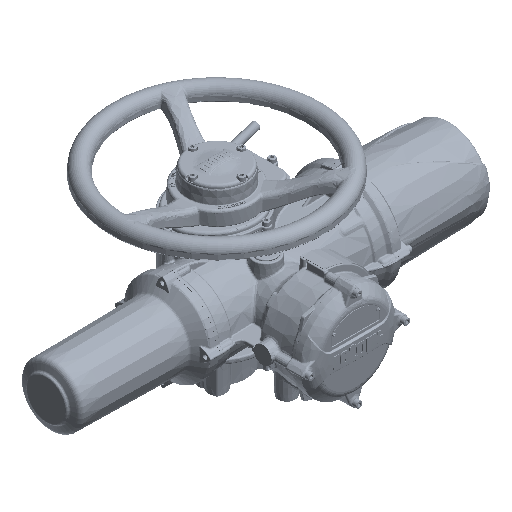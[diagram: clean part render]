
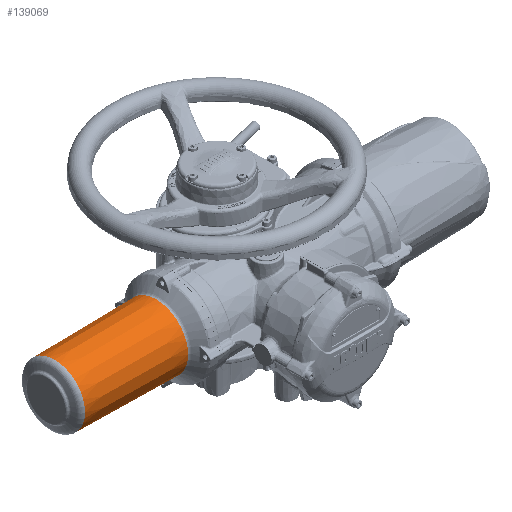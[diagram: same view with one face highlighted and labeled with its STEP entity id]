
A CAD part, isometric view. The second image highlights one B-rep face of the part: STEP entity #139069.
In plain terms, the highlighted conical face has half-angle 0.75 degrees and reference radius 65.5 mm.
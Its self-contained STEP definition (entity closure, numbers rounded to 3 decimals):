
#5150=CONICAL_SURFACE('',#147661,65.5,0.013);
#17978=B_SPLINE_CURVE_WITH_KNOTS('',3,(#252116,#252117,#252118,#252119,
#252120,#252121,#252122,#252123,#252124,#252125,#252126,#252127,#252128,
#252129,#252130,#252131,#252132,#252133,#252134,#252135,#252136,#252137,
#252138,#252139,#252140,#252141,#252142,#252143,#252144,#252145),
 .UNSPECIFIED.,.T.,.F.,(1,1,1,1,1,1,1,1,1,1,1,1,1,1,1,1,1,1,1,1,1,1,1,1,
1,1,1,1,1,1,1,1,1,1),(-0.016,-0.013,-0.006,
0.,0.003,0.006,0.01,0.013,
0.016,0.019,0.022,0.026,
0.029,0.032,0.035,0.038,
0.042,0.045,0.051,0.058,
0.064,0.067,0.07,0.074,
0.077,0.08,0.083,0.086,
0.09,0.096,0.102,0.106,
0.109,0.112),.UNSPECIFIED.);
#43272=ORIENTED_EDGE('',*,*,#60559,.T.);
#43273=ORIENTED_EDGE('',*,*,#60562,.T.);
#43274=ORIENTED_EDGE('',*,*,#60563,.F.);
#60559=EDGE_CURVE('',#70509,#70509,#76083,.F.);
#60562=EDGE_CURVE('',#70510,#70510,#17978,.T.);
#60563=EDGE_CURVE('',#70511,#70511,#76086,.T.);
#70509=VERTEX_POINT('',#251986);
#70510=VERTEX_POINT('',#252146);
#70511=VERTEX_POINT('',#252148);
#76083=CIRCLE('',#147658,65.464);
#76086=CIRCLE('',#147662,62.731);
#82285=EDGE_LOOP('',(#43272));
#82286=EDGE_LOOP('',(#43273));
#82287=EDGE_LOOP('',(#43274));
#89088=FACE_BOUND('',#82285,.T.);
#89089=FACE_BOUND('',#82286,.T.);
#89090=FACE_BOUND('',#82287,.T.);
#139069=ADVANCED_FACE('',(#89088,#89089,#89090),#5150,.T.);
#147658=AXIS2_PLACEMENT_3D('',#251985,#167067,#167068);
#147661=AXIS2_PLACEMENT_3D('',#252115,#167073,#167074);
#147662=AXIS2_PLACEMENT_3D('',#252147,#167075,#167076);
#167067=DIRECTION('',(1.,0.,0.));
#167068=DIRECTION('',(0.,0.,-1.));
#167073=DIRECTION('',(1.,0.,0.));
#167074=DIRECTION('',(0.,0.,-1.));
#167075=DIRECTION('',(-1.,0.,0.));
#167076=DIRECTION('',(0.,0.,1.));
#251985=CARTESIAN_POINT('',(-184.607,-60.,0.));
#251986=CARTESIAN_POINT('',(-184.607,-60.,-65.464));
#252115=CARTESIAN_POINT('',(-181.857,-60.,0.));
#252116=CARTESIAN_POINT('',(-261.185,-51.356,-63.957));
#252117=CARTESIAN_POINT('',(-265.153,-47.6,-63.222));
#252118=CARTESIAN_POINT('',(-268.938,-45.634,-62.74));
#252119=CARTESIAN_POINT('',(-272.024,-44.68,-62.47));
#252120=CARTESIAN_POINT('',(-275.207,-44.28,-62.326));
#252121=CARTESIAN_POINT('',(-278.455,-44.439,-62.323));
#252122=CARTESIAN_POINT('',(-281.574,-45.145,-62.455));
#252123=CARTESIAN_POINT('',(-284.565,-46.412,-62.706));
#252124=CARTESIAN_POINT('',(-287.218,-48.163,-63.03));
#252125=CARTESIAN_POINT('',(-289.536,-50.431,-63.388));
#252126=CARTESIAN_POINT('',(-291.318,-53.067,-63.712));
#252127=CARTESIAN_POINT('',(-292.536,-56.078,-63.957));
#252128=CARTESIAN_POINT('',(-293.057,-59.268,-64.067));
#252129=CARTESIAN_POINT('',(-292.86,-62.496,-64.025));
#252130=CARTESIAN_POINT('',(-291.946,-65.617,-63.836));
#252131=CARTESIAN_POINT('',(-289.876,-69.388,-63.44));
#252132=CARTESIAN_POINT('',(-285.928,-73.141,-62.81));
#252133=CARTESIAN_POINT('',(-279.883,-75.598,-62.296));
#252134=CARTESIAN_POINT('',(-274.446,-75.802,-62.317));
#252135=CARTESIAN_POINT('',(-270.242,-74.842,-62.61));
#252136=CARTESIAN_POINT('',(-267.3,-73.596,-62.936));
#252137=CARTESIAN_POINT('',(-264.607,-71.813,-63.335));
#252138=CARTESIAN_POINT('',(-262.339,-69.592,-63.745));
#252139=CARTESIAN_POINT('',(-260.523,-66.905,-64.121));
#252140=CARTESIAN_POINT('',(-259.331,-63.943,-64.39));
#252141=CARTESIAN_POINT('',(-258.799,-60.726,-64.516));
#252142=CARTESIAN_POINT('',(-259.068,-56.411,-64.452));
#252143=CARTESIAN_POINT('',(-261.185,-51.356,-63.957));
#252144=CARTESIAN_POINT('',(-265.153,-47.6,-63.222));
#252145=CARTESIAN_POINT('',(-268.938,-45.634,-62.74));
#252146=CARTESIAN_POINT('',(-266.15,-47.195,-63.111));
#252147=CARTESIAN_POINT('',(-393.347,-60.,0.));
#252148=CARTESIAN_POINT('',(-393.347,-60.,62.731));
